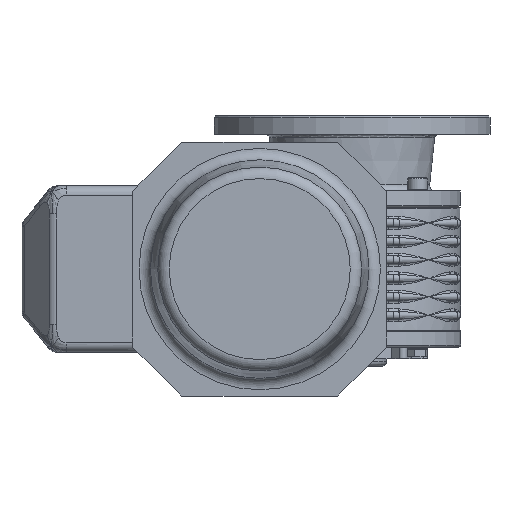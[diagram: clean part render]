
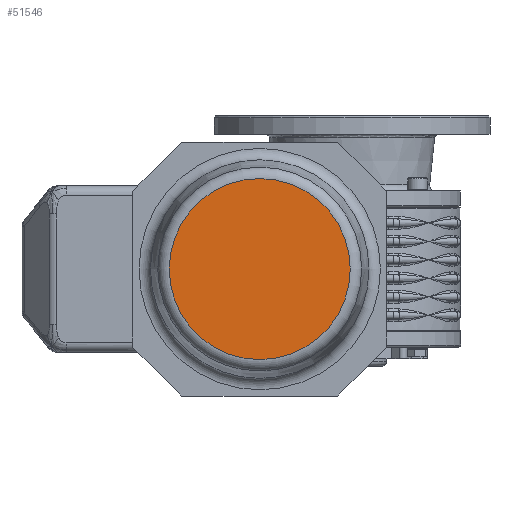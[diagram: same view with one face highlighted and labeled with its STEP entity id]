
A CAD part, left-side view. The second image highlights one B-rep face of the part: STEP entity #51546.
In plain terms, the highlighted planar face has unit normal (-1, 0, 0) as drawn and (1, 0, 0) by its records, which use the part's own axes.
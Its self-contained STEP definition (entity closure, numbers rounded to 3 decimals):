
#51523=CARTESIAN_POINT('',(197.,0.0,39.216));
#51524=VERTEX_POINT('',#51523);
#51525=CARTESIAN_POINT('',(197.,0.0,0.0));
#51526=DIRECTION('',(-1.0,0.0,0.0));
#51527=DIRECTION('',(0.0,0.0,-1.0));
#51528=AXIS2_PLACEMENT_3D('',#51525,#51526,#51527);
#51529=CIRCLE('',#51528,39.216);
#51530=EDGE_CURVE('',#51524,#51524,#51529,.T.);
#51538=CARTESIAN_POINT('',(197.,0.0,21.75));
#51539=DIRECTION('',(1.0,0.0,0.0));
#51540=DIRECTION('',(0.0,0.0,-1.0));
#51541=AXIS2_PLACEMENT_3D('',#51538,#51539,#51540);
#51542=PLANE('',#51541);
#51543=ORIENTED_EDGE('',*,*,#51530,.F.);
#51544=EDGE_LOOP('',(#51543));
#51545=FACE_OUTER_BOUND('',#51544,.T.);
#51546=ADVANCED_FACE('',(#51545),#51542,.T.);
